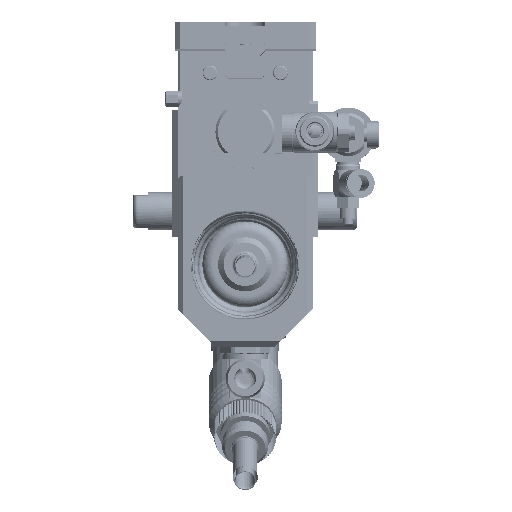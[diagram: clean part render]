
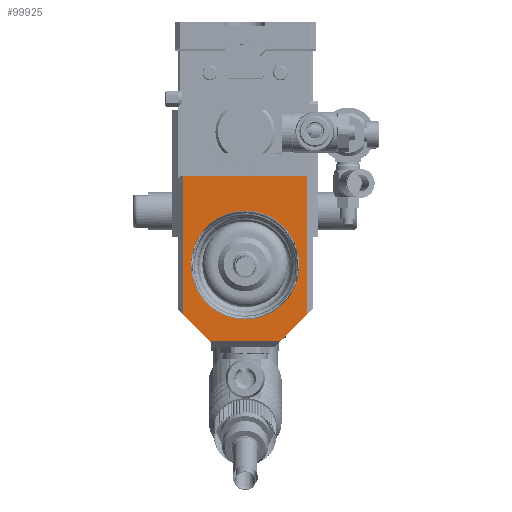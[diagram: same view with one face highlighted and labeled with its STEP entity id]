
A CAD part, top view. The second image highlights one B-rep face of the part: STEP entity #99925.
In plain terms, the highlighted planar face has unit normal (0, 0, 1).
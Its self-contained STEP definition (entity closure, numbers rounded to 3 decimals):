
#7654=LINE('',#322602,#14983);
#7667=LINE('',#322630,#14996);
#7692=LINE('',#322692,#15021);
#7693=LINE('',#322695,#15022);
#7699=LINE('',#322707,#15028);
#7700=LINE('',#322708,#15029);
#14983=VECTOR('',#118616,10.);
#14996=VECTOR('',#118637,10.);
#15021=VECTOR('',#118698,10.);
#15022=VECTOR('',#118701,10.);
#15028=VECTOR('',#118711,10.);
#15029=VECTOR('',#118712,10.);
#20673=FACE_BOUND('',#28503,.T.);
#22956=FACE_OUTER_BOUND('',#28502,.T.);
#28502=EDGE_LOOP('',(#70835,#70836,#70837,#70838,#70839,#70840));
#28503=EDGE_LOOP('',(#70841,#70842));
#33452=CIRCLE('',#105522,18.4);
#33453=CIRCLE('',#105523,18.4);
#40109=VERTEX_POINT('',#322599);
#40110=VERTEX_POINT('',#322601);
#40120=VERTEX_POINT('',#322627);
#40121=VERTEX_POINT('',#322629);
#40141=VERTEX_POINT('',#322694);
#40145=VERTEX_POINT('',#322706);
#40146=VERTEX_POINT('',#322709);
#40147=VERTEX_POINT('',#322710);
#51463=EDGE_CURVE('',#40110,#40109,#7654,.T.);
#51477=EDGE_CURVE('',#40121,#40120,#7667,.T.);
#51509=EDGE_CURVE('',#40110,#40120,#7692,.T.);
#51510=EDGE_CURVE('',#40121,#40141,#7693,.T.);
#51516=EDGE_CURVE('',#40145,#40109,#7699,.T.);
#51517=EDGE_CURVE('',#40141,#40145,#7700,.T.);
#51518=EDGE_CURVE('',#40146,#40147,#33452,.T.);
#51519=EDGE_CURVE('',#40147,#40146,#33453,.T.);
#70835=ORIENTED_EDGE('',*,*,#51463,.T.);
#70836=ORIENTED_EDGE('',*,*,#51516,.F.);
#70837=ORIENTED_EDGE('',*,*,#51517,.F.);
#70838=ORIENTED_EDGE('',*,*,#51510,.F.);
#70839=ORIENTED_EDGE('',*,*,#51477,.T.);
#70840=ORIENTED_EDGE('',*,*,#51509,.F.);
#70841=ORIENTED_EDGE('',*,*,#51518,.T.);
#70842=ORIENTED_EDGE('',*,*,#51519,.T.);
#91319=PLANE('',#105521);
#99925=ADVANCED_FACE('',(#22956,#20673),#91319,.F.);
#105521=AXIS2_PLACEMENT_3D('',#322705,#118709,#118710);
#105522=AXIS2_PLACEMENT_3D('',#322711,#118713,#118714);
#105523=AXIS2_PLACEMENT_3D('',#322712,#118715,#118716);
#118616=DIRECTION('',(0.707,0.707,0.));
#118637=DIRECTION('',(0.707,-0.707,0.));
#118698=DIRECTION('',(-1.,0.,0.));
#118701=DIRECTION('',(0.,1.,0.));
#118709=DIRECTION('center_axis',(0.,0.,
-1.));
#118710=DIRECTION('ref_axis',(0.,-1.,0.));
#118711=DIRECTION('',(0.,-1.,0.));
#118712=DIRECTION('',(1.,0.,0.));
#118713=DIRECTION('center_axis',(0.,0.,
-1.));
#118714=DIRECTION('ref_axis',(0.,1.,0.));
#118715=DIRECTION('center_axis',(0.,0.,
-1.));
#118716=DIRECTION('ref_axis',(0.,1.,0.));
#322599=CARTESIAN_POINT('',(23.202,44.137,683.686));
#322601=CARTESIAN_POINT('',(13.202,34.137,683.686));
#322602=CARTESIAN_POINT('',(16.327,37.262,683.686));
#322627=CARTESIAN_POINT('',(-12.798,34.137,683.686));
#322629=CARTESIAN_POINT('',(-22.798,44.137,683.686));
#322630=CARTESIAN_POINT('',(-22.923,44.262,683.686));
#322692=CARTESIAN_POINT('',(-12.298,34.137,683.686));
#322694=CARTESIAN_POINT('',(-22.798,95.137,683.686));
#322695=CARTESIAN_POINT('',(-22.798,79.387,683.686));
#322705=CARTESIAN_POINT('Origin',(0.202,63.637,683.686));
#322706=CARTESIAN_POINT('',(23.202,95.137,683.686));
#322707=CARTESIAN_POINT('',(23.202,47.887,683.686));
#322708=CARTESIAN_POINT('',(-24.798,95.137,683.686));
#322709=CARTESIAN_POINT('',(0.202,80.537,683.686));
#322710=CARTESIAN_POINT('',(0.202,43.737,683.686));
#322711=CARTESIAN_POINT('Origin',(0.202,62.137,683.686));
#322712=CARTESIAN_POINT('Origin',(0.202,62.137,683.686));
